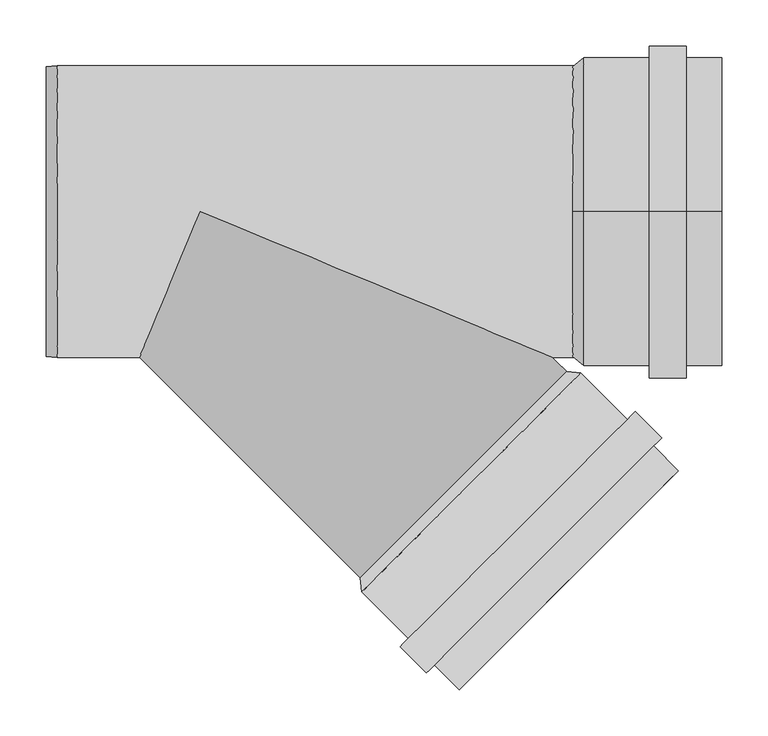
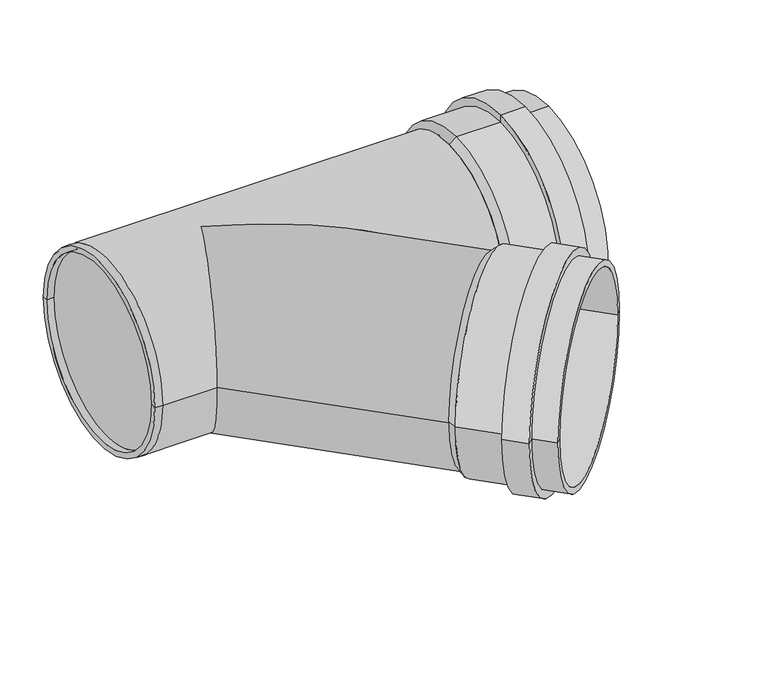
"""IFC4 building model written with IfcOpenShell, lengths in millimetres: pipe fitting geometry, OSMA_KG2000_PPKGEA : Odbočka 45°."""

from ifc_helpers import new_model, si_unit, frame, origin, place, context, project, spatial, polyline, circle_curve, ellipse_curve, source, transform, mapped, element, save
from ifc_brep_helpers import plane_surface, cylinder_surface, revolved_surface, advanced_brep


def pipe_fitting_50a8f138(model_context):
    return source(origin(), model_context, "Body", "AdvancedBrep", [
        advanced_brep(
        [(404.1115254, -181.3728894, 1.6299565), (181.3728894, -404.1115254, 1.6299565), (286.7317998, -509.4704358, 1.6299565), (509.4704358, -286.7317998, 1.6299565), (461.1750427, -224.7185351, 1.6299565), (224.7185351, -461.1750427, 1.6299565), (174.5139536, -410.9704612, 1.6299565), (410.9704612, -174.5139536, 1.6299565), (469.8724561, -216.0211217, 1.6299565), (216.0211217, -469.8724561, 1.6299565), (498.1567273, -244.3053929, 1.6299565), (244.3053929, -498.1567273, 1.6299565), (489.4593139, -253.0028063, 1.6299565), (253.0028063, -489.4593139, 1.6299565), (516.3293716, -279.872864, 1.6299565), (279.872864, -516.3293716, 1.6299565), (388.7673083, -179.7465438, 1.6299565), (179.7465438, -388.7673083, 1.6299565), (395.6262441, -172.887608, 1.6299565), (172.887608, -395.6262441, 1.6299565)],
        [
            (0, 1, circle_curve(frame((292.7422074, -292.7422074, 1.6299565), z_axis=(-0.707106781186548, 0.707106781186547, 0.0), x_axis=(-0.707106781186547, -0.707106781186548, 0.0)), 157.5)),
            (1, 2),
            (2, 3, circle_curve(frame((398.1011178, -398.1011178, 1.6299565), z_axis=(0.707106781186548, -0.707106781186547, 0.0), x_axis=(-0.707106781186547, -0.707106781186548, 0.0)), 157.5)),
            (3, 0),
            (1, 0, circle_curve(frame((292.7422074, -292.7422074, 1.6299565), z_axis=(-0.707106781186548, 0.707106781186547, 0.0), x_axis=(-0.707106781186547, -0.707106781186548, 0.0)), 157.5)),
            (3, 2, circle_curve(frame((398.1011178, -398.1011178, 1.6299565), z_axis=(0.707106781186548, -0.707106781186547, 0.0), x_axis=(-0.707106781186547, -0.707106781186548, 0.0)), 157.5)),
            (4, 5, circle_curve(frame((342.9467889, -342.9467889, 1.6299565), z_axis=(-0.707106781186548, 0.707106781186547, 0.0), x_axis=(-0.707106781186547, -0.707106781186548, 0.0)), 167.2)),
            (5, 6),
            (6, 7, circle_curve(frame((292.7422074, -292.7422074, 1.6299565), z_axis=(0.707106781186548, -0.707106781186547, 0.0), x_axis=(-0.707106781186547, -0.707106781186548, 0.0)), 167.2)),
            (7, 4),
            (5, 4, circle_curve(frame((342.9467889, -342.9467889, 1.6299565), z_axis=(-0.707106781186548, 0.707106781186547, 0.0), x_axis=(-0.707106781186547, -0.707106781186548, 0.0)), 167.2)),
            (7, 6, circle_curve(frame((292.7422074, -292.7422074, 1.6299565), z_axis=(0.707106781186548, -0.707106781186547, 0.0), x_axis=(-0.707106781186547, -0.707106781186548, 0.0)), 167.2)),
            (8, 9, circle_curve(frame((342.9467889, -342.9467889, 1.6299565), z_axis=(-0.707106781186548, 0.707106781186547, 0.0), x_axis=(-0.707106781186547, -0.707106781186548, 0.0)), 179.5)),
            (9, 5),
            (4, 8),
            (9, 8, circle_curve(frame((342.9467889, -342.9467889, 1.6299565), z_axis=(-0.707106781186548, 0.707106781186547, 0.0), x_axis=(-0.707106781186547, -0.707106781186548, 0.0)), 179.5)),
            (10, 11, circle_curve(frame((371.2310601, -371.2310601, 1.6299565), z_axis=(-0.707106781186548, 0.707106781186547, 0.0), x_axis=(-0.707106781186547, -0.707106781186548, 0.0)), 179.5)),
            (11, 9),
            (8, 10),
            (11, 10, circle_curve(frame((371.2310601, -371.2310601, 1.6299565), z_axis=(-0.707106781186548, 0.707106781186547, 0.0), x_axis=(-0.707106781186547, -0.707106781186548, 0.0)), 179.5)),
            (12, 13, circle_curve(frame((371.2310601, -371.2310601, 1.6299565), z_axis=(-0.707106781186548, 0.707106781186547, 0.0), x_axis=(-0.707106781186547, -0.707106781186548, 0.0)), 167.2)),
            (13, 11),
            (10, 12),
            (13, 12, circle_curve(frame((371.2310601, -371.2310601, 1.6299565), z_axis=(-0.707106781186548, 0.707106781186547, 0.0), x_axis=(-0.707106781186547, -0.707106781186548, 0.0)), 167.2)),
            (14, 15, circle_curve(frame((398.1011178, -398.1011178, 1.6299565), z_axis=(-0.707106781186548, 0.707106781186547, 0.0), x_axis=(-0.707106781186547, -0.707106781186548, 0.0)), 167.2)),
            (15, 13),
            (12, 14),
            (15, 14, circle_curve(frame((398.1011178, -398.1011178, 1.6299565), z_axis=(-0.707106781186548, 0.707106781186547, 0.0), x_axis=(-0.707106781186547, -0.707106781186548, 0.0)), 167.2)),
            (2, 15),
            (14, 3),
            (16, 17, circle_curve(frame((284.256926, -284.256926, 1.6299565), z_axis=(-0.707106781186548, 0.707106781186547, 0.0), x_axis=(-0.707106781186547, -0.707106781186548, 0.0)), 147.8)),
            (17, 1),
            (0, 16),
            (17, 16, circle_curve(frame((284.256926, -284.256926, 1.6299565), z_axis=(-0.707106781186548, 0.707106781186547, 0.0), x_axis=(-0.707106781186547, -0.707106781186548, 0.0)), 147.8)),
            (18, 19, circle_curve(frame((284.256926, -284.256926, 1.6299565), z_axis=(-0.707106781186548, 0.707106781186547, 0.0), x_axis=(-0.707106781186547, -0.707106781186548, 0.0)), 157.5)),
            (19, 17),
            (16, 18),
            (19, 18, circle_curve(frame((284.256926, -284.256926, 1.6299565), z_axis=(-0.707106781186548, 0.707106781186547, 0.0), x_axis=(-0.707106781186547, -0.707106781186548, 0.0)), 157.5)),
            (6, 19),
            (18, 7),
        ],
        [
            revolved_surface(polyline([(286.7317997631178, -509.47043583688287, 1.6299565), (181.37288936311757, -404.11152543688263, 1.6299565)]), (2285.7044408, -2285.7044408, 1.6299565), (0.707106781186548, -0.707106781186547, 0.0)),
            cylinder_surface(frame((2285.7044408, -2285.7044408, 1.6299565), z_axis=(0.707106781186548, -0.707106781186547, 0.0), x_axis=(-0.707106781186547, -0.707106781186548, 0.0)), 167.2),
            plane_surface(frame((342.9467889, -342.9467889, 1.6299565), z_axis=(-0.707106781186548, 0.707106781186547, 0.0), x_axis=(-0.707106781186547, -0.707106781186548, 0.0))),
            cylinder_surface(frame((2285.7044408, -2285.7044408, 1.6299565), z_axis=(0.707106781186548, -0.707106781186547, 0.0), x_axis=(-0.707106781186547, -0.707106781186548, 0.0)), 179.5),
            plane_surface(frame((371.2310601, -371.2310601, 1.6299565), z_axis=(0.707106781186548, -0.707106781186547, 0.0), x_axis=(-0.707106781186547, -0.707106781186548, 0.0))),
            plane_surface(frame((398.1011178, -398.1011178, 1.6299565), z_axis=(0.707106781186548, -0.707106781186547, 0.0), x_axis=(-0.707106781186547, -0.707106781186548, 0.0))),
            revolved_surface(polyline([(181.3728894, -404.1115254, 1.6299565), (179.7465438, -388.7673083, 1.6299565)]), (2285.7044408, -2285.7044408, 1.6299565), (0.707106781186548, -0.707106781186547, 0.0)),
            plane_surface(frame((284.256926, -284.256926, 1.6299565), z_axis=(-0.707106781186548, 0.707106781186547, 0.0), x_axis=(-0.707106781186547, -0.707106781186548, 0.0))),
            revolved_surface(polyline([(172.887608, -395.6262441, 1.6299565), (174.5139536, -410.9704612, 1.6299565)]), (2285.7044408, -2285.7044408, 1.6299565), (0.707106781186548, -0.707106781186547, 0.0)),
        ],
        [
            (0, [[1, 2, 3, 4]]),
            (0, [[5, -4, 6, -2]]),
            (1, [[7, 8, 9, 10]]),
            (1, [[11, -10, 12, -8]]),
            (2, [[13, 14, -7, 15]]),
            (2, [[16, -15, -11, -14]]),
            (3, [[17, 18, -13, 19]]),
            (3, [[20, -19, -16, -18]]),
            (4, [[21, 22, -17, 23]]),
            (4, [[24, -23, -20, -22]]),
            (1, [[25, 26, -21, 27]]),
            (1, [[28, -27, -24, -26]]),
            (5, [[-3, 29, -25, 30]]),
            (5, [[-6, -30, -28, -29]]),
            (6, [[31, 32, -1, 33]]),
            (6, [[34, -33, -5, -32]]),
            (7, [[35, 36, -31, 37]]),
            (7, [[38, -37, -34, -36]]),
            (8, [[-9, 39, -35, 40]]),
            (8, [[-12, -40, -38, -39]]),
        ],
    ),
        advanced_brep(
        [(414.0, 0.0, -157.5), (414.0, 0.0, 157.5), (563.0, 0.0, 157.5), (563.0, 0.0, -157.5), (485.0, 0.0, -167.2), (485.0, 0.0, 167.2), (414.0, 0.0, 167.2), (414.0, 0.0, -167.2), (485.0, 0.0, -179.5), (485.0, 0.0, 179.5), (525.0, 0.0, -179.5), (525.0, 0.0, 179.5), (525.0, 0.0, -167.2), (525.0, 0.0, 167.2), (563.0, 0.0, -167.2), (563.0, 0.0, 167.2), (402.0, 0.0, -147.8), (402.0, 0.0, 147.8), (402.0, 0.0, -157.5), (402.0, 0.0, 157.5)],
        [
            (0, 1, circle_curve(frame((414.0, 0.0, 0.0), z_axis=(-1.0, 0.0, 0.0), x_axis=(0.0, 0.0, 1.0)), 157.5)),
            (1, 2),
            (2, 3, circle_curve(frame((563.0, 0.0, 0.0), z_axis=(1.0, 0.0, 0.0), x_axis=(0.0, 0.0, 1.0)), 157.5)),
            (3, 0),
            (1, 0, circle_curve(frame((414.0, 0.0, 0.0), z_axis=(-1.0, 0.0, 0.0), x_axis=(0.0, 0.0, 1.0)), 157.5)),
            (3, 2, circle_curve(frame((563.0, 0.0, 0.0), z_axis=(1.0, 0.0, 0.0), x_axis=(0.0, 0.0, 1.0)), 157.5)),
            (4, 5, circle_curve(frame((485.0, 0.0, 0.0), z_axis=(-1.0, 0.0, 0.0), x_axis=(0.0, 0.0, 1.0)), 167.2)),
            (5, 6),
            (6, 7, circle_curve(frame((414.0, 0.0, 0.0), z_axis=(1.0, 0.0, 0.0), x_axis=(0.0, 0.0, 1.0)), 167.2)),
            (7, 4),
            (5, 4, circle_curve(frame((485.0, 0.0, 0.0), z_axis=(-1.0, 0.0, 0.0), x_axis=(0.0, 0.0, 1.0)), 167.2)),
            (7, 6, circle_curve(frame((414.0, 0.0, 0.0), z_axis=(1.0, 0.0, 0.0), x_axis=(0.0, 0.0, 1.0)), 167.2)),
            (8, 9, circle_curve(frame((485.0, 0.0, 0.0), z_axis=(-1.0, 0.0, 0.0), x_axis=(0.0, 0.0, 1.0)), 179.5)),
            (9, 5),
            (4, 8),
            (9, 8, circle_curve(frame((485.0, 0.0, 0.0), z_axis=(-1.0, 0.0, 0.0), x_axis=(0.0, 0.0, 1.0)), 179.5)),
            (10, 11, circle_curve(frame((525.0, 0.0, 0.0), z_axis=(-1.0, 0.0, 0.0), x_axis=(0.0, 0.0, 1.0)), 179.5)),
            (11, 9),
            (8, 10),
            (11, 10, circle_curve(frame((525.0, 0.0, 0.0), z_axis=(-1.0, 0.0, 0.0), x_axis=(0.0, 0.0, 1.0)), 179.5)),
            (12, 13, circle_curve(frame((525.0, 0.0, 0.0), z_axis=(-1.0, 0.0, 0.0), x_axis=(0.0, 0.0, 1.0)), 167.2)),
            (13, 11),
            (10, 12),
            (13, 12, circle_curve(frame((525.0, 0.0, 0.0), z_axis=(-1.0, 0.0, 0.0), x_axis=(0.0, 0.0, 1.0)), 167.2)),
            (14, 15, circle_curve(frame((563.0, 0.0, 0.0), z_axis=(-1.0, 0.0, 0.0), x_axis=(0.0, 0.0, 1.0)), 167.2)),
            (15, 13),
            (12, 14),
            (15, 14, circle_curve(frame((563.0, 0.0, 0.0), z_axis=(-1.0, 0.0, 0.0), x_axis=(0.0, 0.0, 1.0)), 167.2)),
            (2, 15),
            (14, 3),
            (16, 17, circle_curve(frame((402.0, 0.0, 0.0), z_axis=(-1.0, 0.0, 0.0), x_axis=(0.0, 0.0, 1.0)), 147.8)),
            (17, 1),
            (0, 16),
            (17, 16, circle_curve(frame((402.0, 0.0, 0.0), z_axis=(-1.0, 0.0, 0.0), x_axis=(0.0, 0.0, 1.0)), 147.8)),
            (18, 19, circle_curve(frame((402.0, 0.0, 0.0), z_axis=(-1.0, 0.0, 0.0), x_axis=(0.0, 0.0, 1.0)), 157.5)),
            (19, 17),
            (16, 18),
            (19, 18, circle_curve(frame((402.0, 0.0, 0.0), z_axis=(-1.0, 0.0, 0.0), x_axis=(0.0, 0.0, 1.0)), 157.5)),
            (6, 19),
            (18, 7),
        ],
        [
            revolved_surface(polyline([(563.0, 0.0, 157.5), (414.0, 0.0, 157.5)]), (3232.4742198, 0.0, 0.0), (1.0, 0.0, 0.0)),
            cylinder_surface(frame((3232.4742198, 0.0, 0.0), z_axis=(1.0, 0.0, 0.0), x_axis=(0.0, 0.0, 1.0)), 167.2),
            plane_surface(frame((485.0, 0.0, 0.0), z_axis=(-1.0, 0.0, 0.0), x_axis=(0.0, 0.0, 1.0))),
            cylinder_surface(frame((3232.4742198, 0.0, 0.0), z_axis=(1.0, 0.0, 0.0), x_axis=(0.0, 0.0, 1.0)), 179.5),
            plane_surface(frame((525.0, 0.0, 0.0), z_axis=(1.0, 0.0, 0.0), x_axis=(0.0, 0.0, 1.0))),
            plane_surface(frame((563.0, 0.0, 0.0), z_axis=(1.0, 0.0, 0.0), x_axis=(0.0, 0.0, 1.0))),
            revolved_surface(polyline([(414.0, 0.0, 157.5), (402.0, 0.0, 147.8)]), (3232.4742198, 0.0, 0.0), (1.0, 0.0, 0.0)),
            plane_surface(frame((402.0, 0.0, 0.0), z_axis=(-1.0, 0.0, 0.0), x_axis=(0.0, 0.0, 1.0))),
            revolved_surface(polyline([(402.0, 0.0, 157.5), (414.0, 0.0, 167.2)]), (3232.4742198, 0.0, 0.0), (1.0, 0.0, 0.0)),
        ],
        [
            (0, [[1, 2, 3, 4]]),
            (0, [[5, -4, 6, -2]]),
            (1, [[7, 8, 9, 10]]),
            (1, [[11, -10, 12, -8]]),
            (2, [[13, 14, -7, 15]]),
            (2, [[16, -15, -11, -14]]),
            (3, [[17, 18, -13, 19]]),
            (3, [[20, -19, -16, -18]]),
            (4, [[21, 22, -17, 23]]),
            (4, [[24, -23, -20, -22]]),
            (1, [[25, 26, -21, 27]]),
            (1, [[28, -27, -24, -26]]),
            (5, [[-3, 29, -25, 30]]),
            (5, [[-6, -30, -28, -29]]),
            (6, [[31, 32, -1, 33]]),
            (6, [[34, -33, -5, -32]]),
            (7, [[35, 36, -31, 37]]),
            (7, [[38, -37, -34, -36]]),
            (8, [[-9, 39, -35, 40]]),
            (8, [[-12, -40, -38, -39]]),
        ],
    ),
        advanced_brep(
        [(177.1302487, -399.8688848, 0.0), (399.8688848, -177.1302487, 0.0), (380.2386361, -157.5, 0.0), (0.0, 0.0, 157.5), (-65.2386361, -157.5, 0.0), (0.0, 0.0, -157.5), (-166.0, -147.8, 0.0), (-166.0, 147.8, 0.0), (-166.0, 156.709508, 0.0), (-166.0, -156.709508, 0.0), (-154.0, -147.8, 0.0), (-154.0, 147.8, 0.0), (-154.0, 157.5, 0.0), (-154.0, -157.5, 0.0), (408.0, 157.5, 0.0), (408.0, -157.5, 0.0)],
        [
            (0, 1, circle_curve(frame((288.4995667, -288.4995667, 0.0), z_axis=(0.7071067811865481, -0.7071067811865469, 0.0), x_axis=(0.7071067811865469, 0.7071067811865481, 0.0)), 157.5)),
            (1, 0, circle_curve(frame((288.4995667, -288.4995667, 0.0), z_axis=(0.7071067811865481, -0.7071067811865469, 0.0), x_axis=(0.7071067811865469, 0.7071067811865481, 0.0)), 157.5)),
            (1, 2),
            (2, 3, ellipse_curve(frame((0.0, 0.0, 0.0), z_axis=(-0.3826834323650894, -0.923879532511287, 0.0), x_axis=(-0.923879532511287, 0.38268343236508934, 0.0)), 411.5673339, 157.5)),
            (3, 4, ellipse_curve(frame((0.0, 0.0, 0.0), z_axis=(0.923879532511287, -0.3826834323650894, 0.0), x_axis=(0.38268343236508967, 0.9238795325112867, 0.0)), 170.4767715, 157.5)),
            (4, 0),
            (4, 5, ellipse_curve(frame((0.0, 0.0, 0.0), z_axis=(0.923879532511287, -0.3826834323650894, 0.0), x_axis=(0.38268343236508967, 0.9238795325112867, 0.0)), 170.4767715, 157.5)),
            (5, 2, ellipse_curve(frame((0.0, 0.0, 0.0), z_axis=(-0.3826834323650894, -0.923879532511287, 0.0), x_axis=(-0.923879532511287, 0.38268343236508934, 0.0)), 411.5673339, 157.5)),
            (6, 7, circle_curve(frame((-166.0, 0.0, 0.0), z_axis=(1.0, 0.0, 0.0), x_axis=(0.0, 1.0, 0.0)), 147.8)),
            (7, 8),
            (8, 9, circle_curve(frame((-166.0, 0.0, 0.0), z_axis=(-1.0, 0.0, 0.0), x_axis=(0.0, 1.0, 0.0)), 156.709508)),
            (9, 6),
            (7, 6, circle_curve(frame((-166.0, 0.0, 0.0), z_axis=(1.0, 0.0, 0.0), x_axis=(0.0, 1.0, 0.0)), 147.8)),
            (9, 8, circle_curve(frame((-166.0, 0.0, 0.0), z_axis=(-1.0, 0.0, 0.0), x_axis=(0.0, 1.0, 0.0)), 156.709508)),
            (6, 10),
            (10, 11, circle_curve(frame((-154.0, 0.0, 0.0), z_axis=(1.0, 0.0, 0.0), x_axis=(0.0, 1.0, 0.0)), 147.8)),
            (11, 7),
            (11, 10, circle_curve(frame((-154.0, 0.0, 0.0), z_axis=(1.0, 0.0, 0.0), x_axis=(0.0, 1.0, 0.0)), 147.8)),
            (8, 12),
            (12, 13, circle_curve(frame((-154.0, 0.0, 0.0), z_axis=(-1.0, 0.0, 0.0), x_axis=(0.0, 1.0, 0.0)), 157.5)),
            (13, 9),
            (13, 12, circle_curve(frame((-154.0, 0.0, 0.0), z_axis=(-1.0, 0.0, 0.0), x_axis=(0.0, 1.0, 0.0)), 157.5)),
            (14, 15, circle_curve(frame((408.0, 0.0, 0.0), z_axis=(1.0, 0.0, 0.0), x_axis=(0.0, -1.0, 0.0)), 157.5)),
            (15, 14, circle_curve(frame((408.0, 0.0, 0.0), z_axis=(1.0, 0.0, 0.0), x_axis=(0.0, -1.0, 0.0)), 157.5)),
            (14, 12),
            (13, 4),
            (2, 15),
        ],
        [
            plane_surface(frame((288.4995667, -288.4995667, 0.0), z_axis=(0.7071067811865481, -0.7071067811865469, 0.0), x_axis=(0.0, 0.0, 1.0))),
            cylinder_surface(frame((0.0, 0.0, 0.0), z_axis=(-0.7071067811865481, 0.7071067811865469, 0.0), x_axis=(0.7071067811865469, 0.7071067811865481, 0.0)), 157.5),
            plane_surface(frame((-166.0, 0.0, 0.0), z_axis=(-1.0, 0.0, 0.0), x_axis=(0.0, 1.0, 0.0))),
            revolved_surface(polyline([(-166.0, 147.8, 0.0), (-154.0, 147.8, 0.0)]), (2317.0, 0.0, 0.0), (-1.0, 0.0, 0.0)),
            revolved_surface(polyline([(-154.0, 157.5, 0.0), (-166.0, 156.709508, 0.0)]), (2317.0, 0.0, 0.0), (-1.0, 0.0, 0.0)),
            plane_surface(frame((408.0, 0.0, 0.0), z_axis=(1.0, 0.0, 0.0), x_axis=(0.0, 0.0, 1.0))),
            plane_surface(frame((-154.0, 0.0, 0.0), z_axis=(-1.0, 0.0, 0.0), x_axis=(0.0, 0.0, 1.0))),
            cylinder_surface(frame((408.0, 0.0, 0.0), z_axis=(1.0, 0.0, 0.0), x_axis=(0.0, -1.0, 0.0)), 157.5),
        ],
        [
            (0, [[1, 2]]),
            (1, [[-2, 3, 4, 5, 6]]),
            (1, [[-1, -6, 7, 8, -3]]),
            (2, [[9, 10, 11, 12]]),
            (2, [[-10, 13, -12, 14]]),
            (3, [[-9, 15, 16, 17]]),
            (3, [[-13, -17, 18, -15]]),
            (4, [[-11, 19, 20, 21]]),
            (4, [[-14, -21, 22, -19]]),
            (5, [[23, 24]]),
            (6, [[-16, -18]]),
            (7, [[-23, 25, -22, 26, -5, -4, 27]]),
            (7, [[-24, -27, -8, -7, -26, -20, -25]]),
        ],
    ),
    ])


if __name__ == "__main__":
    model = new_model("IFC4")
    model_context = context("Model", 3, world=origin())
    ifc_project = project(units=[si_unit("LENGTHUNIT", "METRE", prefix="MILLI")], contexts=[model_context])
    site = spatial("IfcSite", under=ifc_project)
    building = spatial("IfcBuilding", under=site)
    placement = place(None, origin())
    pipe_fitting_shape = pipe_fitting_50a8f138(model_context)
    element("IfcPipeFitting", 1, ObjectType="OSMA_KG2000_PPKGEA : Odbočka 45°", at=placement, inside=building, context=model_context, shape_type="MappedRepresentation", body=[
        mapped(pipe_fitting_shape, transform((0.0, 0.0, 0.0), x_axis=(1.0, 0.0, 0.0), y_axis=(0.0, 1.0, 0.0), z_axis=(0.0, 0.0, 1.0))),
    ])
    save(model, "model.ifc")
